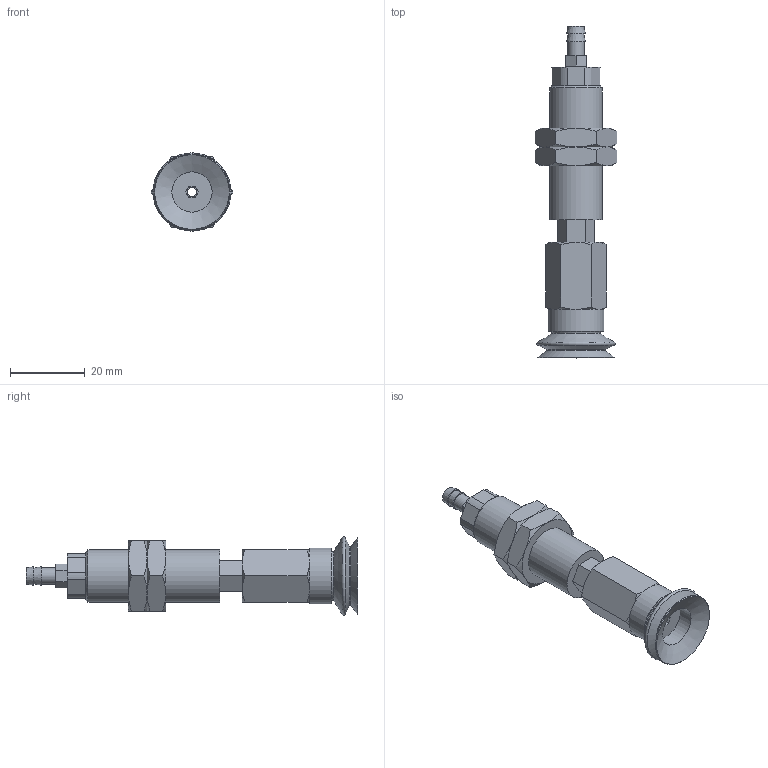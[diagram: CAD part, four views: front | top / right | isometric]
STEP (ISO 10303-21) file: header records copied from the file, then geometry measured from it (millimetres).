
FILE_DESCRIPTION(('STEP AP203'),'1');
FILE_NAME('-T.stp','2025-08-27T06:56:05',(' '),(' '),'Spatial InterOp 3D',' ',' ');
FILE_SCHEMA(('CONFIG_CONTROL_DESIGN'));
Length unit declared in the file: millimetre
Products named in the file (8): BNABPJTH-20-6-※-T; ADAPTER; NAPBTH-20-6-MBODY; Adapter-20-NAPJ; NAPJH-20-6-NUT; NAPJTH-20-6-FBODY; BPJG-20-※; T
Assembly tree (8 placements, depth 2):
  BNABPJTH-20-6-※-T
    ADAPTER
    NAPBTH-20-6-MBODY
    Adapter-20-NAPJ
    NAPJH-20-6-NUT  x2
    NAPJTH-20-6-FBODY
    BPJG-20-※
    T
Bounding box: 21.94 x 89 x 21 mm (x, y, z)
Volume: 12887.5 mm3; surface area: 10645.1 mm2
Topology: 8 solids, 8 shells, 155 faces, 337 edges, 208 vertices
Faces by surface type: plane 74, cone 52, cylinder 22, torus 7
Full cylindrical faces by diameter (mm): 2.5 x1, 3 x3, 4.134 x2, 4.3 x1, 4.6 x1, 5 x2, 10.8 x1, 11 x1, 13.188 x2, 14 x1, 15 x1
Entity records: 4006 total; most frequent: CARTESIAN_POINT 895, DIRECTION 568, ORIENTED_EDGE 490, EDGE_CURVE 245, AXIS2_PLACEMENT_3D 230, EDGE_LOOP 192, VERTEX_POINT 173, FACE_OUTER_BOUND 154
